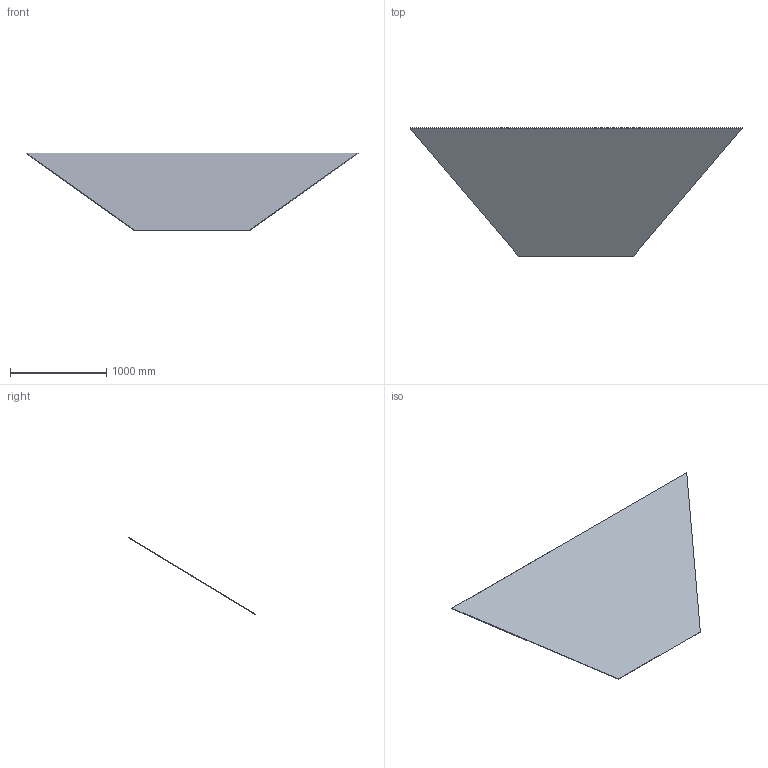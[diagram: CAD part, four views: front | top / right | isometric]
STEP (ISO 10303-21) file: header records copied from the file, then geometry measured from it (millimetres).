
FILE_DESCRIPTION(('Open CASCADE Model'),'2;1');
FILE_NAME('Open CASCADE Shape Model','2026-09-19T12:55:11',('Author'),( 'Open CASCADE'),'Open CASCADE STEP processor 7.9','Open CASCADE 7.9' ,'Unknown');
FILE_SCHEMA(('AUTOMOTIVE_DESIGN { 1 0 10303 214 1 1 1 1 }'));
Length unit declared in the file: millimetre
Products named in the file (1): Open CASCADE STEP translator 7.9 15
Bounding box: 3450 x 1329.13 x 806.85 mm (x, y, z)
Volume: 28788720.4 mm3; surface area: 7264995.1 mm2
Topology: 1 solids, 1 shells, 6 faces, 12 edges, 8 vertices
Faces by surface type: plane 6
Entity records: 322 total; most frequent: CARTESIAN_POINT 51, DIRECTION 50, LINE 36, VECTOR 36, ORIENTED_EDGE 24, PCURVE 24, DEFINITIONAL_REPRESENTATION 24, EDGE_CURVE 12
